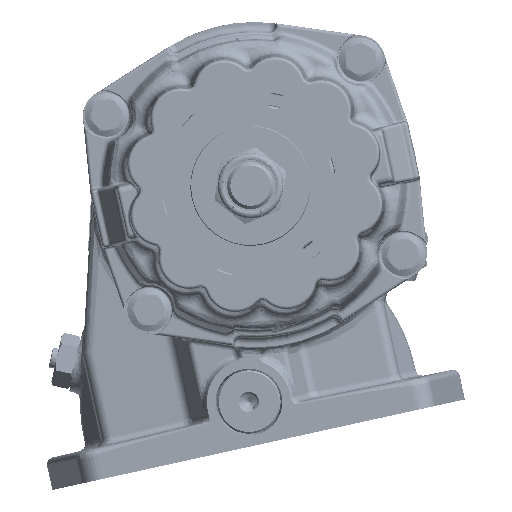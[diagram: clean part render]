
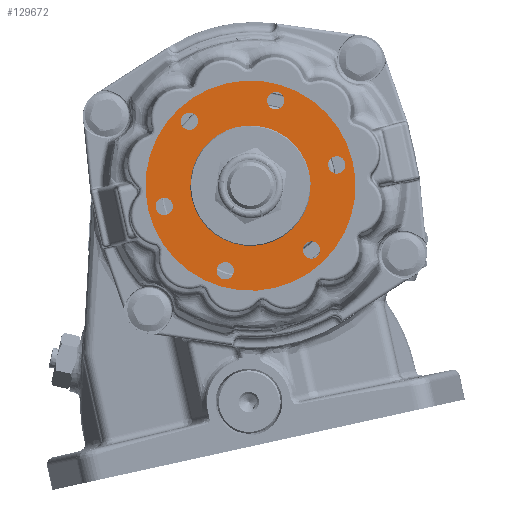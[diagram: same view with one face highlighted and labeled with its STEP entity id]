
A CAD part, left-side view. The second image highlights one B-rep face of the part: STEP entity #129672.
In plain terms, the highlighted planar face has unit normal (-1, 0, 0) as drawn and (1, 0, 0) by its records, which use the part's own axes.
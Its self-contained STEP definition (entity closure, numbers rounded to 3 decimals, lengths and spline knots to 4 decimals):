
#11198=FACE_BOUND('',#27264,.T.);
#11199=FACE_BOUND('',#27265,.T.);
#11200=FACE_BOUND('',#27266,.T.);
#11201=FACE_BOUND('',#27267,.T.);
#11202=FACE_BOUND('',#27268,.T.);
#11203=FACE_BOUND('',#27269,.T.);
#11204=FACE_BOUND('',#27270,.T.);
#13098=PLANE('',#140290);
#19453=FACE_OUTER_BOUND('',#27263,.T.);
#27263=EDGE_LOOP('',(#113330,#113331));
#27264=EDGE_LOOP('',(#113332));
#27265=EDGE_LOOP('',(#113333));
#27266=EDGE_LOOP('',(#113334));
#27267=EDGE_LOOP('',(#113335));
#27268=EDGE_LOOP('',(#113336));
#27269=EDGE_LOOP('',(#113337));
#27270=EDGE_LOOP('',(#113338,#113339));
#56027=CIRCLE('',#140245,0.1615);
#56028=CIRCLE('',#140247,0.1615);
#56029=CIRCLE('',#140249,0.1615);
#56030=CIRCLE('',#140251,0.1615);
#56031=CIRCLE('',#140253,0.1615);
#56032=CIRCLE('',#140255,0.1615);
#56052=CIRCLE('',#140288,1.9585);
#56053=CIRCLE('',#140289,1.9585);
#56054=CIRCLE('',#140291,1.1217);
#56055=CIRCLE('',#140292,1.1217);
#64706=VERTEX_POINT('',#248373);
#64707=VERTEX_POINT('',#248377);
#64708=VERTEX_POINT('',#248381);
#64709=VERTEX_POINT('',#248385);
#64710=VERTEX_POINT('',#248389);
#64711=VERTEX_POINT('',#248393);
#64730=VERTEX_POINT('',#248453);
#64731=VERTEX_POINT('',#248454);
#64732=VERTEX_POINT('',#248459);
#64733=VERTEX_POINT('',#248460);
#81294=EDGE_CURVE('',#64706,#64706,#56027,.T.);
#81296=EDGE_CURVE('',#64707,#64707,#56028,.T.);
#81298=EDGE_CURVE('',#64708,#64708,#56029,.T.);
#81300=EDGE_CURVE('',#64709,#64709,#56030,.T.);
#81302=EDGE_CURVE('',#64710,#64710,#56031,.T.);
#81304=EDGE_CURVE('',#64711,#64711,#56032,.T.);
#81332=EDGE_CURVE('',#64730,#64731,#56052,.T.);
#81333=EDGE_CURVE('',#64731,#64730,#56053,.T.);
#81335=EDGE_CURVE('',#64732,#64733,#56054,.T.);
#81336=EDGE_CURVE('',#64733,#64732,#56055,.T.);
#113330=ORIENTED_EDGE('',*,*,#81332,.T.);
#113331=ORIENTED_EDGE('',*,*,#81333,.T.);
#113332=ORIENTED_EDGE('',*,*,#81294,.T.);
#113333=ORIENTED_EDGE('',*,*,#81296,.T.);
#113334=ORIENTED_EDGE('',*,*,#81298,.T.);
#113335=ORIENTED_EDGE('',*,*,#81300,.T.);
#113336=ORIENTED_EDGE('',*,*,#81302,.T.);
#113337=ORIENTED_EDGE('',*,*,#81304,.T.);
#113338=ORIENTED_EDGE('',*,*,#81335,.F.);
#113339=ORIENTED_EDGE('',*,*,#81336,.F.);
#129672=ADVANCED_FACE('',(#19453,#11198,#11199,#11200,#11201,#11202,#11203,
#11204),#13098,.T.);
#140245=AXIS2_PLACEMENT_3D('',#248374,#163743,#163744);
#140247=AXIS2_PLACEMENT_3D('',#248378,#163748,#163749);
#140249=AXIS2_PLACEMENT_3D('',#248382,#163753,#163754);
#140251=AXIS2_PLACEMENT_3D('',#248386,#163758,#163759);
#140253=AXIS2_PLACEMENT_3D('',#248390,#163763,#163764);
#140255=AXIS2_PLACEMENT_3D('',#248394,#163768,#163769);
#140288=AXIS2_PLACEMENT_3D('',#248455,#163842,#163843);
#140289=AXIS2_PLACEMENT_3D('',#248456,#163844,#163845);
#140290=AXIS2_PLACEMENT_3D('',#248458,#163847,#163848);
#140291=AXIS2_PLACEMENT_3D('',#248461,#163849,#163850);
#140292=AXIS2_PLACEMENT_3D('',#248462,#163851,#163852);
#163743=DIRECTION('center_axis',(-1.,0.,0.));
#163744=DIRECTION('ref_axis',(0.,0.866,0.5));
#163748=DIRECTION('center_axis',(-1.,0.,0.));
#163749=DIRECTION('ref_axis',(0.,0.866,-0.5));
#163753=DIRECTION('center_axis',(-1.,0.,0.));
#163754=DIRECTION('ref_axis',(0.,0.,-1.));
#163758=DIRECTION('center_axis',(-1.,0.,0.));
#163759=DIRECTION('ref_axis',(0.,-0.866,-0.5));
#163763=DIRECTION('center_axis',(-1.,0.,0.));
#163764=DIRECTION('ref_axis',(0.,-0.866,0.5));
#163768=DIRECTION('center_axis',(-1.,0.,0.));
#163769=DIRECTION('ref_axis',(0.,0.,1.));
#163842=DIRECTION('center_axis',(1.,0.,0.));
#163843=DIRECTION('ref_axis',(0.,1.,0.));
#163844=DIRECTION('center_axis',(1.,0.,0.));
#163845=DIRECTION('ref_axis',(0.,1.,0.));
#163847=DIRECTION('center_axis',(1.,0.,0.));
#163848=DIRECTION('ref_axis',(0.,0.,-1.));
#163849=DIRECTION('center_axis',(1.,0.,0.));
#163850=DIRECTION('ref_axis',(0.,1.,0.));
#163851=DIRECTION('center_axis',(1.,0.,0.));
#163852=DIRECTION('ref_axis',(0.,1.,0.));
#248373=CARTESIAN_POINT('',(2.875,0.6869,-1.5127));
#248374=CARTESIAN_POINT('Origin',(2.875,0.8267,-1.432));
#248377=CARTESIAN_POINT('',(2.875,-0.9666,-1.3512));
#248378=CARTESIAN_POINT('Origin',(2.875,-0.8268,-1.432));
#248381=CARTESIAN_POINT('',(2.875,-1.6535,0.1615));
#248382=CARTESIAN_POINT('Origin',(2.875,-1.6535,0.));
#248385=CARTESIAN_POINT('',(2.875,-0.6869,1.5127));
#248386=CARTESIAN_POINT('Origin',(2.875,-0.8268,1.432));
#248389=CARTESIAN_POINT('',(2.875,0.9666,1.3512));
#248390=CARTESIAN_POINT('Origin',(2.875,0.8268,1.432));
#248393=CARTESIAN_POINT('',(2.875,1.6535,-0.1615));
#248394=CARTESIAN_POINT('Origin',(2.875,1.6535,0.));
#248453=CARTESIAN_POINT('',(2.875,1.9585,0.));
#248454=CARTESIAN_POINT('',(2.875,-1.9585,0.));
#248455=CARTESIAN_POINT('Origin',(2.875,0.,0.));
#248456=CARTESIAN_POINT('Origin',(2.875,0.,0.));
#248458=CARTESIAN_POINT('Origin',(2.875,1.5401,0.));
#248459=CARTESIAN_POINT('',(2.875,1.1217,0.));
#248460=CARTESIAN_POINT('',(2.875,-1.1217,0.));
#248461=CARTESIAN_POINT('Origin',(2.875,0.,0.));
#248462=CARTESIAN_POINT('Origin',(2.875,0.,0.));
